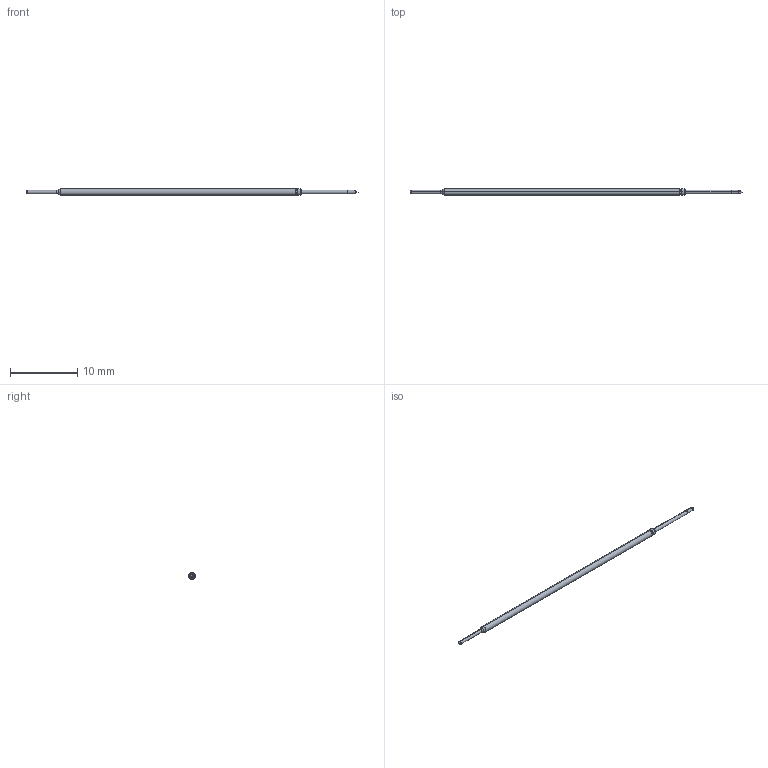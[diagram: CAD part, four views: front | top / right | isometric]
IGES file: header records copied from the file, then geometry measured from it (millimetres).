
Start section: SolidWorks IGES file using analytic representation for surfaces
Global section: file name: C:\Documents and Settings\mrumschlag\Desktop\changes\new\test\I8.IGS; native system: SolidWorks 2011; preprocessor: SolidWorks 2011; author: mrumschlag; date: 110630.142321; units: inch
Bounding box: 49.28 x 0.97 x 0.97 mm (x, y, z)
Surface area: 132.2 mm2 (no closed solid volume)
Topology: 0 solids, 0 shells, 39 faces, 206 edges, 204 vertices
Faces by surface type: bspline 21, revolution 18
